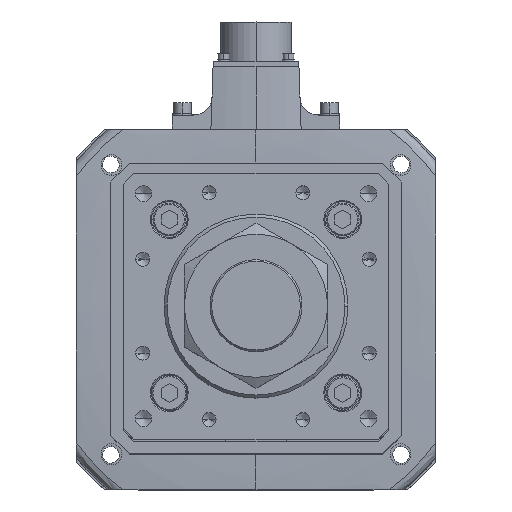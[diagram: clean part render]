
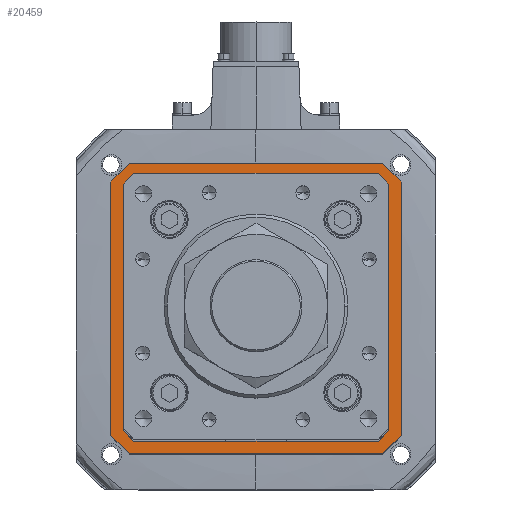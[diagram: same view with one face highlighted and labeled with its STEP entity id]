
A CAD part, top view. The second image highlights one B-rep face of the part: STEP entity #20459.
In plain terms, the highlighted planar face has unit normal (0, 0, 1).
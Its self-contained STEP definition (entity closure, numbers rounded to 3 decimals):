
#240 = LINE ( 'NONE', #18079, #4277 ) ;
#516 = CARTESIAN_POINT ( 'NONE',  ( 62., -71., -142. ) ) ;
#1155 = VERTEX_POINT ( 'NONE', #7115 ) ;
#1613 = DIRECTION ( 'NONE',  ( 0., -1., 0. ) ) ;
#1629 = ORIENTED_EDGE ( 'NONE', *, *, #46570, .T. ) ;
#1688 = CARTESIAN_POINT ( 'NONE',  ( -62., 71., -142. ) ) ;
#1980 = ORIENTED_EDGE ( 'NONE', *, *, #20623, .F. ) ;
#2086 = VECTOR ( 'NONE', #3361, 1000. ) ;
#2484 = DIRECTION ( 'NONE',  ( -1., 0., 0. ) ) ;
#2978 = VERTEX_POINT ( 'NONE', #26055 ) ;
#3359 = VECTOR ( 'NONE', #7319, 1000. ) ;
#3361 = DIRECTION ( 'NONE',  ( -0.707, -0.707, 0. ) ) ;
#3482 = EDGE_CURVE ( 'NONE', #36872, #20490, #25277, .T. ) ;
#3618 = CARTESIAN_POINT ( 'NONE',  ( 58.793, 63., -142. ) ) ;
#3729 = VECTOR ( 'NONE', #5809, 1000. ) ;
#3772 = LINE ( 'NONE', #26432, #7068 ) ;
#3846 = CARTESIAN_POINT ( 'NONE',  ( -71., 62., -142. ) ) ;
#4277 = VECTOR ( 'NONE', #52449, 1000. ) ;
#5494 = VECTOR ( 'NONE', #29169, 1000. ) ;
#5809 = DIRECTION ( 'NONE',  ( 0., 1., 0. ) ) ;
#5956 = CARTESIAN_POINT ( 'NONE',  ( 62., -71., -142. ) ) ;
#6166 = DIRECTION ( 'NONE',  ( 0.707, 0.707, 0. ) ) ;
#6934 = EDGE_CURVE ( 'NONE', #49868, #11587, #43724, .T. ) ;
#7068 = VECTOR ( 'NONE', #30159, 1000. ) ;
#7115 = CARTESIAN_POINT ( 'NONE',  ( -58.793, -63., -142. ) ) ;
#7319 = DIRECTION ( 'NONE',  ( -0.707, 0.707, 0. ) ) ;
#7912 = ORIENTED_EDGE ( 'NONE', *, *, #21650, .F. ) ;
#8070 = VECTOR ( 'NONE', #2484, 1000. ) ;
#9321 = LINE ( 'NONE', #54083, #3359 ) ;
#9934 = LINE ( 'NONE', #26447, #13240 ) ;
#11587 = VERTEX_POINT ( 'NONE', #42743 ) ;
#12007 = CARTESIAN_POINT ( 'NONE',  ( 63., -58.793, -142. ) ) ;
#12139 = ORIENTED_EDGE ( 'NONE', *, *, #48941, .F. ) ;
#12453 = CARTESIAN_POINT ( 'NONE',  ( 63., 0., -142. ) ) ;
#13177 = DIRECTION ( 'NONE',  ( 0.707, -0.707, 0. ) ) ;
#13240 = VECTOR ( 'NONE', #38966, 1000. ) ;
#13501 = CARTESIAN_POINT ( 'NONE',  ( 62., 71., -142. ) ) ;
#13553 = ORIENTED_EDGE ( 'NONE', *, *, #3482, .F. ) ;
#16047 = LINE ( 'NONE', #49267, #8070 ) ;
#16699 = EDGE_LOOP ( 'NONE', ( #12139, #13553, #50746, #44574, #1980, #41572, #24950, #7912 ) ) ;
#17567 = DIRECTION ( 'NONE',  ( 1., 0., 0. ) ) ;
#17613 = VECTOR ( 'NONE', #17567, 1000. ) ;
#18079 = CARTESIAN_POINT ( 'NONE',  ( 60.896, 60.896, -142. ) ) ;
#20002 = ORIENTED_EDGE ( 'NONE', *, *, #6934, .T. ) ;
#20459 = ADVANCED_FACE ( 'NONE', ( #41059, #28395 ), #41730, .T. ) ;
#20490 = VERTEX_POINT ( 'NONE', #20633 ) ;
#20623 = EDGE_CURVE ( 'NONE', #38375, #48448, #52358, .T. ) ;
#20633 = CARTESIAN_POINT ( 'NONE',  ( -62., 71., -142. ) ) ;
#21140 = VERTEX_POINT ( 'NONE', #29353 ) ;
#21331 = LINE ( 'NONE', #50590, #35329 ) ;
#21358 = CARTESIAN_POINT ( 'NONE',  ( -60.896, 60.896, -142. ) ) ;
#21623 = EDGE_CURVE ( 'NONE', #11587, #33307, #40957, .T. ) ;
#21650 = EDGE_CURVE ( 'NONE', #44688, #36606, #28289, .T. ) ;
#21910 = DIRECTION ( 'NONE',  ( -1., 0., 0. ) ) ;
#22117 = DIRECTION ( 'NONE',  ( 0.707, 0.707, 0. ) ) ;
#22527 = CARTESIAN_POINT ( 'NONE',  ( 71., 62., -142. ) ) ;
#23003 = CARTESIAN_POINT ( 'NONE',  ( 71., 62., -142. ) ) ;
#23309 = EDGE_CURVE ( 'NONE', #31325, #38375, #21331, .T. ) ;
#23443 = CARTESIAN_POINT ( 'NONE',  ( 58.793, -63., -142. ) ) ;
#24358 = CARTESIAN_POINT ( 'NONE',  ( 60.896, -60.896, -142. ) ) ;
#24950 = ORIENTED_EDGE ( 'NONE', *, *, #31625, .F. ) ;
#25277 = LINE ( 'NONE', #1688, #30595 ) ;
#25955 = ORIENTED_EDGE ( 'NONE', *, *, #47944, .T. ) ;
#26055 = CARTESIAN_POINT ( 'NONE',  ( 63., 58.793, -142. ) ) ;
#26432 = CARTESIAN_POINT ( 'NONE',  ( -62., -71., -142. ) ) ;
#26447 = CARTESIAN_POINT ( 'NONE',  ( 0., 63., -142. ) ) ;
#27378 = VECTOR ( 'NONE', #1613, 1000. ) ;
#27646 = CARTESIAN_POINT ( 'NONE',  ( 62., 71., -142. ) ) ;
#28289 = LINE ( 'NONE', #51983, #38948 ) ;
#28339 = VERTEX_POINT ( 'NONE', #12007 ) ;
#28395 = FACE_OUTER_BOUND ( 'NONE', #16699, .T. ) ;
#28888 = EDGE_CURVE ( 'NONE', #48448, #21140, #3772, .T. ) ;
#29169 = DIRECTION ( 'NONE',  ( 0., 1., 0. ) ) ;
#29238 = CARTESIAN_POINT ( 'NONE',  ( 0., 0., -142. ) ) ;
#29297 = CARTESIAN_POINT ( 'NONE',  ( -63., -58.793, -142. ) ) ;
#29353 = CARTESIAN_POINT ( 'NONE',  ( -71., -62., -142. ) ) ;
#29976 = DIRECTION ( 'NONE',  ( 0., -1., 0. ) ) ;
#30139 = LINE ( 'NONE', #3846, #5494 ) ;
#30159 = DIRECTION ( 'NONE',  ( -0.707, 0.707, 0. ) ) ;
#30595 = VECTOR ( 'NONE', #6166, 1000. ) ;
#30910 = ORIENTED_EDGE ( 'NONE', *, *, #21623, .T. ) ;
#31038 = CARTESIAN_POINT ( 'NONE',  ( -58.793, 63., -142. ) ) ;
#31144 = CARTESIAN_POINT ( 'NONE',  ( -63., 0., -142. ) ) ;
#31325 = VERTEX_POINT ( 'NONE', #34441 ) ;
#31625 = EDGE_CURVE ( 'NONE', #36606, #31325, #38719, .T. ) ;
#32327 = EDGE_CURVE ( 'NONE', #41264, #1155, #16047, .T. ) ;
#32848 = EDGE_LOOP ( 'NONE', ( #25955, #1629, #51398, #36612, #20002, #30910, #51079, #52991 ) ) ;
#33307 = VERTEX_POINT ( 'NONE', #31038 ) ;
#34441 = CARTESIAN_POINT ( 'NONE',  ( 71., -62., -142. ) ) ;
#35329 = VECTOR ( 'NONE', #37165, 1000. ) ;
#36606 = VERTEX_POINT ( 'NONE', #22527 ) ;
#36612 = ORIENTED_EDGE ( 'NONE', *, *, #47422, .T. ) ;
#36872 = VERTEX_POINT ( 'NONE', #50310 ) ;
#37165 = DIRECTION ( 'NONE',  ( -0.707, -0.707, 0. ) ) ;
#37300 = CARTESIAN_POINT ( 'NONE',  ( -62., -71., -142. ) ) ;
#37699 = VECTOR ( 'NONE', #21910, 1000. ) ;
#38375 = VERTEX_POINT ( 'NONE', #5956 ) ;
#38719 = LINE ( 'NONE', #23003, #27378 ) ;
#38740 = AXIS2_PLACEMENT_3D ( 'NONE', #29238, #42473, #46047 ) ;
#38948 = VECTOR ( 'NONE', #13177, 1000. ) ;
#38966 = DIRECTION ( 'NONE',  ( 1., 0., 0. ) ) ;
#40865 = VERTEX_POINT ( 'NONE', #3618 ) ;
#40957 = LINE ( 'NONE', #21358, #45645 ) ;
#41059 = FACE_BOUND ( 'NONE', #32848, .T. ) ;
#41264 = VERTEX_POINT ( 'NONE', #23443 ) ;
#41572 = ORIENTED_EDGE ( 'NONE', *, *, #23309, .F. ) ;
#41730 = PLANE ( 'NONE',  #38740 ) ;
#42473 = DIRECTION ( 'NONE',  ( 0., 0., 1. ) ) ;
#42743 = CARTESIAN_POINT ( 'NONE',  ( -63., 58.793, -142. ) ) ;
#43045 = LINE ( 'NONE', #13501, #17613 ) ;
#43724 = LINE ( 'NONE', #31144, #3729 ) ;
#43801 = VECTOR ( 'NONE', #29976, 1000. ) ;
#44574 = ORIENTED_EDGE ( 'NONE', *, *, #28888, .F. ) ;
#44630 = EDGE_CURVE ( 'NONE', #40865, #2978, #240, .T. ) ;
#44688 = VERTEX_POINT ( 'NONE', #27646 ) ;
#45645 = VECTOR ( 'NONE', #22117, 1000. ) ;
#45863 = EDGE_CURVE ( 'NONE', #21140, #36872, #30139, .T. ) ;
#46047 = DIRECTION ( 'NONE',  ( 1., 0., 0. ) ) ;
#46570 = EDGE_CURVE ( 'NONE', #28339, #41264, #49411, .T. ) ;
#47422 = EDGE_CURVE ( 'NONE', #1155, #49868, #9321, .T. ) ;
#47944 = EDGE_CURVE ( 'NONE', #2978, #28339, #49056, .T. ) ;
#48448 = VERTEX_POINT ( 'NONE', #37300 ) ;
#48941 = EDGE_CURVE ( 'NONE', #20490, #44688, #43045, .T. ) ;
#49056 = LINE ( 'NONE', #12453, #43801 ) ;
#49267 = CARTESIAN_POINT ( 'NONE',  ( 0., -63., -142. ) ) ;
#49411 = LINE ( 'NONE', #24358, #2086 ) ;
#49868 = VERTEX_POINT ( 'NONE', #29297 ) ;
#50310 = CARTESIAN_POINT ( 'NONE',  ( -71., 62., -142. ) ) ;
#50590 = CARTESIAN_POINT ( 'NONE',  ( 71., -62., -142. ) ) ;
#50746 = ORIENTED_EDGE ( 'NONE', *, *, #45863, .F. ) ;
#51079 = ORIENTED_EDGE ( 'NONE', *, *, #54571, .T. ) ;
#51398 = ORIENTED_EDGE ( 'NONE', *, *, #32327, .T. ) ;
#51983 = CARTESIAN_POINT ( 'NONE',  ( 71., 62., -142. ) ) ;
#52358 = LINE ( 'NONE', #516, #37699 ) ;
#52449 = DIRECTION ( 'NONE',  ( 0.707, -0.707, 0. ) ) ;
#52991 = ORIENTED_EDGE ( 'NONE', *, *, #44630, .T. ) ;
#54083 = CARTESIAN_POINT ( 'NONE',  ( -60.896, -60.896, -142. ) ) ;
#54571 = EDGE_CURVE ( 'NONE', #33307, #40865, #9934, .T. ) ;
